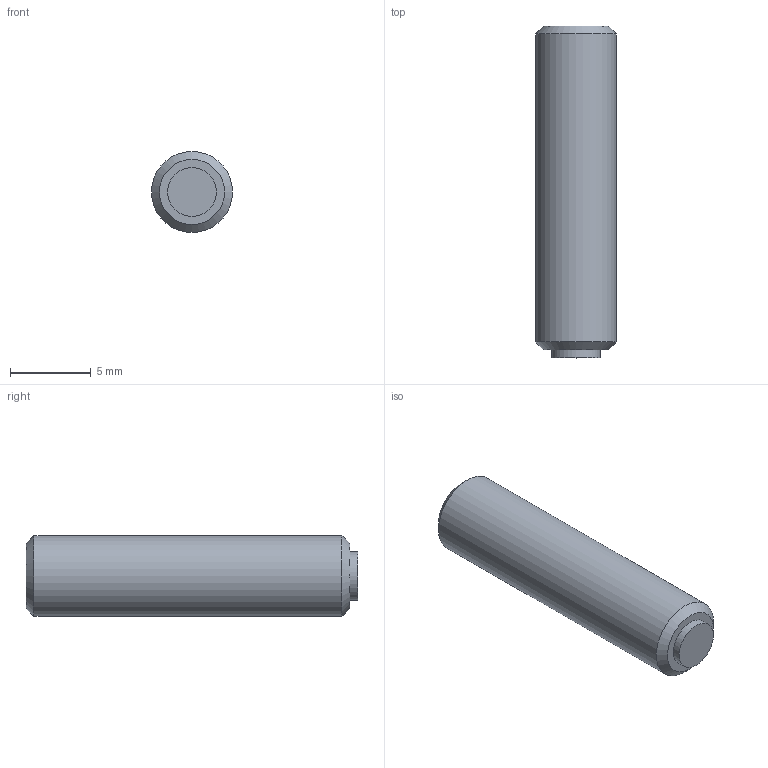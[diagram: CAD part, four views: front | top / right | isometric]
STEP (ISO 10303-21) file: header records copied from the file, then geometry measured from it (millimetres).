
FILE_DESCRIPTION( ( 'STEP AP203' ), '1' );
FILE_NAME( 'C:/Temp/Ganter_Step_05_03_2020/data/3_2/gn913_3/Grub screw GN 913.3-M5-20-MS.stp', '2020-03-13T05:35:47', ( 'License CC BY-ND 4.0' ), ( 'CADENAS' ), ' ', 'PARTsolutions', ' ' );
FILE_SCHEMA( ( 'CONFIG_CONTROL_DESIGN' ) );
Length unit declared in the file: millimetre
Products named in the file (1): _Grub screw GN 913.3-M5-20-MS
Bounding box: 5 x 20.5 x 5 mm (x, y, z)
Volume: 376.5 mm3; surface area: 374.5 mm2
Topology: 1 solids, 1 shells, 14 faces, 28 edges, 18 vertices
Faces by surface type: plane 10, cylinder 2, cone 2
Full cylindrical faces by diameter (mm): 3 x1, 5 x1
Entity records: 386 total; most frequent: DIRECTION 60, CARTESIAN_POINT 57, ORIENTED_EDGE 48, EDGE_CURVE 24, AXIS2_PLACEMENT_3D 21, EDGE_LOOP 20, VERTEX_POINT 18, LINE 18
